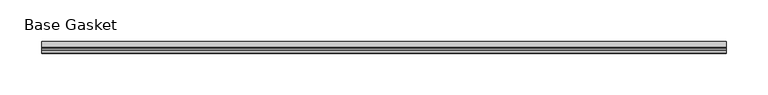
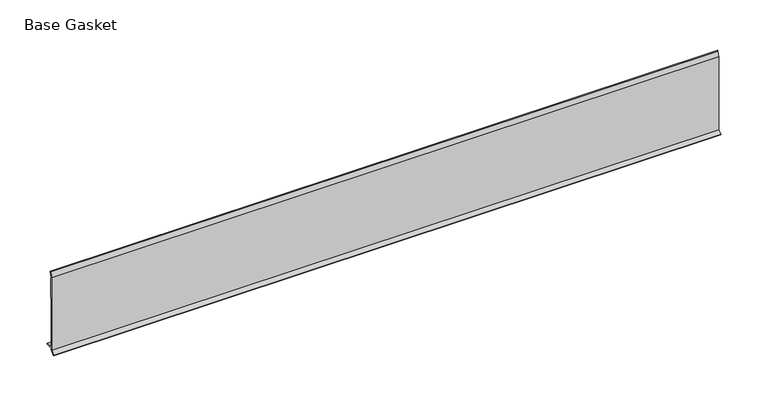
"""IFC4 building model written with IfcOpenShell, lengths in millimetres: furniture geometry, Gasket-Teknion-FHGB-AI_Healthcare-R2021 : Base Gasket."""

from ifc_helpers import new_model, si_unit, frame, origin, place, context, project, spatial, polyline, outline, extrude, source, transform, mapped, element, save


def base_gasket_b327c4ea(model_context):
    return source(origin(), model_context, "Body", "SweptSolid", [
        extrude(outline(polyline([(-3.7283812, 98.4568417), (-1.1891543, 104.587663), (-0.6755308, 105.2002997), (-0.6755308, 104.4162708), (-2.2043812, 98.4568417), (-2.2043812, 96.8693477), (-1.4106313, 96.8693477), (-1.4106313, 71.4693447), (-2.2043812, 71.4693447), (-2.2043812, 7.9398773), (6.2405171, 7.9398773), (6.2405171, 6.3818476), (-2.1334222, 6.3818476), (-2.2043812, 4.3498477), (-6.8281054, 0.3520979), (-7.8482342, 0.0), (-7.4222115, 0.6560174), (-3.7283812, 4.3498477), (-3.7283812, 98.4568417)])), frame((-1527.8982117, 0.0, 0.0), z_axis=(1.0, 0.0, 0.0), x_axis=(0.0, 1.0, 0.0)), (0.0, 0.0, 1.0), 818.0090928),
    ])


if __name__ == "__main__":
    model = new_model("IFC4")
    model_context = context("Model", 3, world=origin())
    ifc_project = project(units=[si_unit("LENGTHUNIT", "METRE", prefix="MILLI")], contexts=[model_context])
    site = spatial("IfcSite", under=ifc_project)
    building = spatial("IfcBuilding", under=site)
    placement = place(None, origin())
    base_gasket_shape = base_gasket_b327c4ea(model_context)
    element("IfcFurniture", 1, ObjectType="Gasket-Teknion-FHGB-AI_Healthcare-R2021 : Base Gasket", at=placement, inside=building, context=model_context, shape_type="MappedRepresentation", body=[
        mapped(base_gasket_shape, transform((0.0, 0.0, 0.0), x_axis=(1.0, 0.0, 0.0), y_axis=(0.0, 1.0, 0.0), z_axis=(0.0, 0.0, 1.0))),
    ])
    save(model, "model.ifc")
